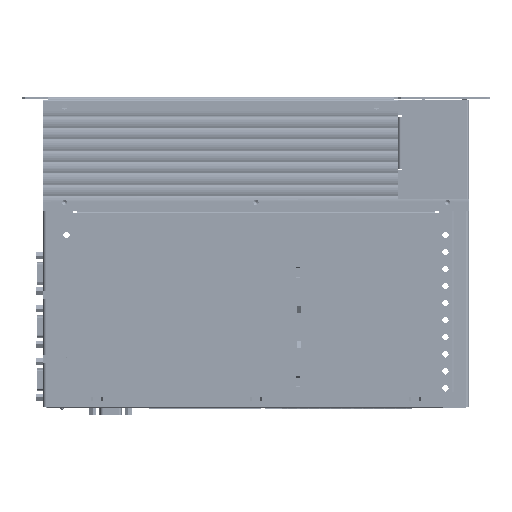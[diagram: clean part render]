
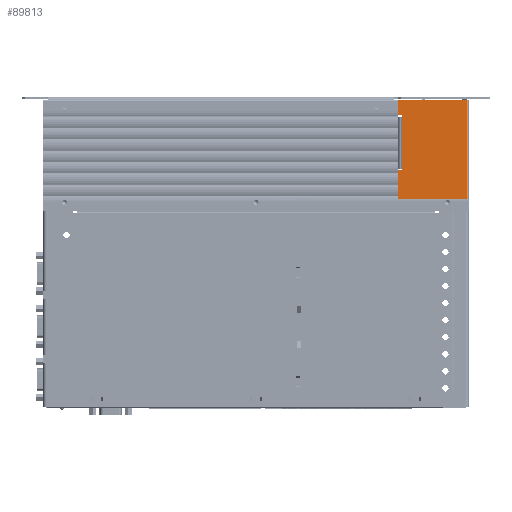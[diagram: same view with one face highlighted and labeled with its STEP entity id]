
A CAD part, front view. The second image highlights one B-rep face of the part: STEP entity #89813.
In plain terms, the highlighted planar face has unit normal (0, -1, 0) as drawn and (1, 0, 0) by its records, which use the part's own axes.
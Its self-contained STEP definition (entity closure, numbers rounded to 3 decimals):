
#86128 = VERTEX_POINT ( 'NONE', #205950 ) ;
#86228 = EDGE_CURVE ( 'NONE', #86229, #86235, #206059, .T. ) ;
#86229 = VERTEX_POINT ( 'NONE', #206055 ) ;
#86235 = VERTEX_POINT ( 'NONE', #206054 ) ;
#86382 = EDGE_CURVE ( 'NONE', #86384, #86128, #206188, .T. ) ;
#86384 = VERTEX_POINT ( 'NONE', #206183 ) ;
#89448 = VERTEX_POINT ( 'NONE', #207855 ) ;
#89510 = EDGE_CURVE ( 'NONE', #86235, #86384, #207880, .T. ) ;
#89532 = EDGE_CURVE ( 'NONE', #89592, #89448, #207859, .T. ) ;
#89558 = VERTEX_POINT ( 'NONE', #207908 ) ;
#89568 = EDGE_CURVE ( 'NONE', #89448, #89558, #207896, .T. ) ;
#89592 = VERTEX_POINT ( 'NONE', #207941 ) ;
#89598 = EDGE_CURVE ( 'NONE', #86128, #89592, #207935, .T. ) ;
#89605 = VERTEX_POINT ( 'NONE', #207921 ) ;
#89615 = EDGE_CURVE ( 'NONE', #89672, #89605, #207978, .T. ) ;
#89672 = VERTEX_POINT ( 'NONE', #208008 ) ;
#89679 = EDGE_CURVE ( 'NONE', #89558, #89672, #208002, .T. ) ;
#89685 = VERTEX_POINT ( 'NONE', #207994 ) ;
#89700 = EDGE_CURVE ( 'NONE', #89846, #89685, #207987, .T. ) ;
#89728 = VERTEX_POINT ( 'NONE', #208037 ) ;
#89739 = EDGE_CURVE ( 'NONE', #89605, #89728, #208030, .T. ) ;
#89801 = EDGE_CURVE ( 'NONE', #89685, #86229, #208058, .T. ) ;
#89813 = ADVANCED_FACE ( 'NONE', ( #208109 ), #208108, .T. ) ;
#89817 = EDGE_LOOP ( 'NONE', ( #89826, #89833, #89835, #89904, #89910, #89914, #89920, #89927, #89930, #89933, #89940, #89946 ) ) ;
#89826 = ORIENTED_EDGE ( 'NONE', *, *, #89801, .T. ) ;
#89833 = ORIENTED_EDGE ( 'NONE', *, *, #86228, .T. ) ;
#89835 = ORIENTED_EDGE ( 'NONE', *, *, #89510, .T. ) ;
#89846 = VERTEX_POINT ( 'NONE', #208088 ) ;
#89852 = EDGE_CURVE ( 'NONE', #89728, #89846, #208087, .T. ) ;
#89904 = ORIENTED_EDGE ( 'NONE', *, *, #86382, .T. ) ;
#89910 = ORIENTED_EDGE ( 'NONE', *, *, #89598, .T. ) ;
#89914 = ORIENTED_EDGE ( 'NONE', *, *, #89532, .T. ) ;
#89920 = ORIENTED_EDGE ( 'NONE', *, *, #89568, .T. ) ;
#89927 = ORIENTED_EDGE ( 'NONE', *, *, #89679, .T. ) ;
#89930 = ORIENTED_EDGE ( 'NONE', *, *, #89615, .T. ) ;
#89933 = ORIENTED_EDGE ( 'NONE', *, *, #89739, .T. ) ;
#89940 = ORIENTED_EDGE ( 'NONE', *, *, #89852, .T. ) ;
#89946 = ORIENTED_EDGE ( 'NONE', *, *, #89700, .T. ) ;
#205950 = CARTESIAN_POINT ( 'NONE',  ( 35., 19., 14. ) ) ;
#206054 = CARTESIAN_POINT ( 'NONE',  ( 35., 20., -23. ) ) ;
#206055 = CARTESIAN_POINT ( 'NONE',  ( 35., 19., -23. ) ) ;
#206056 = DIRECTION ( 'NONE',  ( 0., 1., 0. ) ) ;
#206057 = VECTOR ( 'NONE', #206056, 1000. ) ;
#206058 = CARTESIAN_POINT ( 'NONE',  ( 35., 19., -23. ) ) ;
#206059 = LINE ( 'NONE', #206058, #206057 ) ;
#206183 = CARTESIAN_POINT ( 'NONE',  ( 35., 20., 14. ) ) ;
#206184 = DIRECTION ( 'NONE',  ( 0., -1., 0. ) ) ;
#206185 = VECTOR ( 'NONE', #206184, 1000. ) ;
#206186 = CARTESIAN_POINT ( 'NONE',  ( 35., 22., 14. ) ) ;
#206188 = LINE ( 'NONE', #206186, #206185 ) ;
#207855 = CARTESIAN_POINT ( 'NONE',  ( 35., 22., 15. ) ) ;
#207856 = DIRECTION ( 'NONE',  ( 0., 1., 0. ) ) ;
#207857 = VECTOR ( 'NONE', #207856, 1000. ) ;
#207858 = CARTESIAN_POINT ( 'NONE',  ( 35., -28., 15. ) ) ;
#207859 = LINE ( 'NONE', #207858, #207857 ) ;
#207877 = DIRECTION ( 'NONE',  ( 0., 0., 1. ) ) ;
#207878 = VECTOR ( 'NONE', #207877, 1000. ) ;
#207879 = CARTESIAN_POINT ( 'NONE',  ( 35., 20., 35. ) ) ;
#207880 = LINE ( 'NONE', #207879, #207878 ) ;
#207893 = DIRECTION ( 'NONE',  ( 0., 0., 1. ) ) ;
#207894 = VECTOR ( 'NONE', #207893, 1000. ) ;
#207895 = CARTESIAN_POINT ( 'NONE',  ( 35., 22., 35. ) ) ;
#207896 = LINE ( 'NONE', #207895, #207894 ) ;
#207908 = CARTESIAN_POINT ( 'NONE',  ( 35., 22., 35. ) ) ;
#207921 = CARTESIAN_POINT ( 'NONE',  ( 35., -26.5, -35. ) ) ;
#207932 = DIRECTION ( 'NONE',  ( 0., 0., 1. ) ) ;
#207933 = VECTOR ( 'NONE', #207932, 1000. ) ;
#207934 = CARTESIAN_POINT ( 'NONE',  ( 35., 19., 35. ) ) ;
#207935 = LINE ( 'NONE', #207934, #207933 ) ;
#207941 = CARTESIAN_POINT ( 'NONE',  ( 35., 19., 15. ) ) ;
#207975 = DIRECTION ( 'NONE',  ( 0., 0., -1. ) ) ;
#207976 = VECTOR ( 'NONE', #207975, 1000. ) ;
#207977 = CARTESIAN_POINT ( 'NONE',  ( 35., -26.5, 35. ) ) ;
#207978 = LINE ( 'NONE', #207977, #207976 ) ;
#207984 = DIRECTION ( 'NONE',  ( 0., -1., 0. ) ) ;
#207985 = VECTOR ( 'NONE', #207984, 1000. ) ;
#207986 = CARTESIAN_POINT ( 'NONE',  ( 35., -28., -24. ) ) ;
#207987 = LINE ( 'NONE', #207986, #207985 ) ;
#207994 = CARTESIAN_POINT ( 'NONE',  ( 35., 19., -24. ) ) ;
#207999 = DIRECTION ( 'NONE',  ( 0., -1., 0. ) ) ;
#208000 = VECTOR ( 'NONE', #207999, 1000. ) ;
#208001 = CARTESIAN_POINT ( 'NONE',  ( 35., -28., 35. ) ) ;
#208002 = LINE ( 'NONE', #208001, #208000 ) ;
#208008 = CARTESIAN_POINT ( 'NONE',  ( 35., -26.5, 35. ) ) ;
#208027 = DIRECTION ( 'NONE',  ( 0., 1., 0. ) ) ;
#208028 = VECTOR ( 'NONE', #208027, 1000. ) ;
#208029 = CARTESIAN_POINT ( 'NONE',  ( 35., -28., -35. ) ) ;
#208030 = LINE ( 'NONE', #208029, #208028 ) ;
#208037 = CARTESIAN_POINT ( 'NONE',  ( 35., 22., -35. ) ) ;
#208055 = DIRECTION ( 'NONE',  ( 0., 0., 1. ) ) ;
#208056 = VECTOR ( 'NONE', #208055, 1000. ) ;
#208057 = CARTESIAN_POINT ( 'NONE',  ( 35., 19., 35. ) ) ;
#208058 = LINE ( 'NONE', #208057, #208056 ) ;
#208084 = DIRECTION ( 'NONE',  ( 0., 0., 1. ) ) ;
#208085 = VECTOR ( 'NONE', #208084, 1000. ) ;
#208086 = CARTESIAN_POINT ( 'NONE',  ( 35., 22., 35. ) ) ;
#208087 = LINE ( 'NONE', #208086, #208085 ) ;
#208088 = CARTESIAN_POINT ( 'NONE',  ( 35., 22., -24. ) ) ;
#208103 = DIRECTION ( 'NONE',  ( 0., 0., -1. ) ) ;
#208104 = DIRECTION ( 'NONE',  ( 1., 0., 0. ) ) ;
#208105 = CARTESIAN_POINT ( 'NONE',  ( 35., -28., 35. ) ) ;
#208107 = AXIS2_PLACEMENT_3D ( 'NONE', #208105, #208104, #208103 ) ;
#208108 = PLANE ( 'NONE',  #208107 ) ;
#208109 = FACE_OUTER_BOUND ( 'NONE', #89817, .T. ) ;
